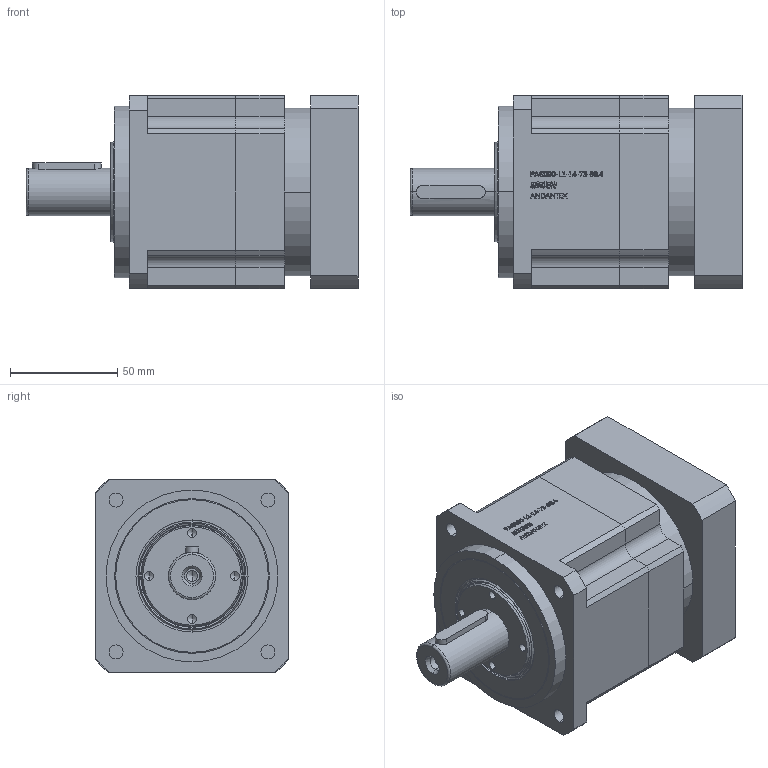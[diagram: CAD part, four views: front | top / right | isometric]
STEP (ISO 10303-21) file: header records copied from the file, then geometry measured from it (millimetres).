
FILE_DESCRIPTION (( 'STEP AP203' ), '1' );
FILE_NAME ('PAG090-L1-14-73-98.4.STEP', '2022-07-18T07:44:23', ( 'Windows User' ), ( 'P R C' ), 'SwSTEP 2.0', 'SolidWorks 2016', '' );
FILE_SCHEMA (( 'CONFIG_CONTROL_DESIGN' ));
Length unit declared in the file: millimetre
Products named in the file (7): A倰す瑩 6x6x32; PAG90 珨撰蟀諉啣 90選 073x5 98.4xM5 25L; PAG090-L1-14-73-98.4; PAG90-奻裔啣; PAG90-狟裔-14; 油封範本 TC 72x50x8_TC-34.9-55-7; 内六角圆柱头螺钉M6×16
Assembly tree (6 placements, depth 2):
  PAG090-L1-14-73-98.4
    PAG90-奻裔啣
    PAG90-狟裔-14
    油封範本 TC 72x50x8_TC-34.9-55-7
    内六角圆柱头螺钉M6×16
    A倰す瑩 6x6x32
    PAG90 珨撰蟀諉啣 90選 073x5 98.4xM5 25L
Bounding box: 154.5 x 90 x 90 mm (x, y, z)
Volume: 726203.9 mm3; surface area: 120711.8 mm2
Topology: 6 solids, 6 shells, 886 faces, 2323 edges, 1526 vertices
Faces by surface type: plane 513, bspline 164, cylinder 155, cone 34, torus 20
Entity records: 35480 total; most frequent: CARTESIAN_POINT 13684, ORIENTED_EDGE 4610, DIRECTION 3818, EDGE_CURVE 2305, LINE 1576, VECTOR 1576, VERTEX_POINT 1526, AXIS2_PLACEMENT_3D 1121
